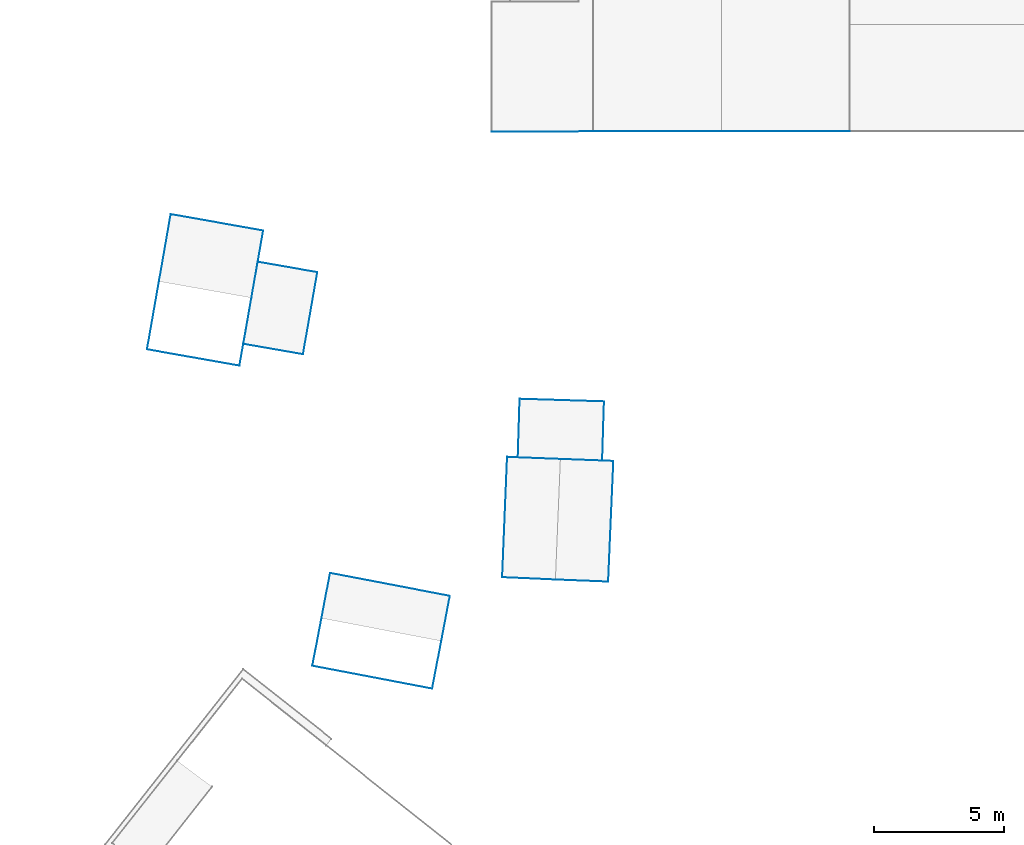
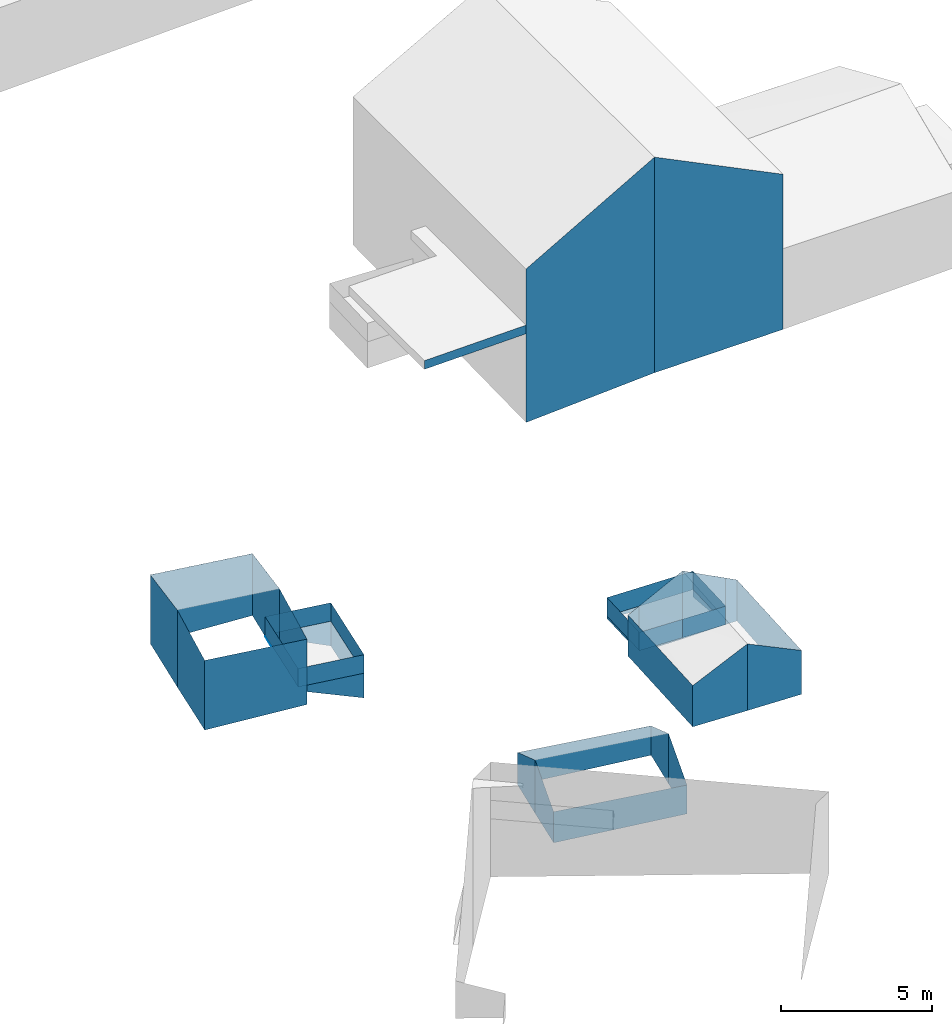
# Not in any storey, part 6 of 59: 49 walls.
"""IFC4 building model written with IfcOpenShell, lengths in metres."""

from ifc_helpers import new_model, entity, si_unit, converted_unit, frame, origin, place, context, subcontext, project, spatial, face_set, surface_model, element, save


model = new_model("IFC4")

# Units and contexts
model_context = context("Model", 3, precision=1e-05, world=origin())
body_context = subcontext(model_context, "Body", "Model", "MODEL_VIEW")
ifc_project = project(units=[converted_unit("PLANEANGLEUNIT", "DEGREE", entity("IfcRatioMeasure", 0.0174532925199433), si_unit("PLANEANGLEUNIT", "RADIAN"), dimensions=[0, 0, 0, 0, 0, 0, 0]), si_unit("AREAUNIT", "SQUARE_METRE"), si_unit("LENGTHUNIT", "METRE")], contexts=[model_context])

# Site, building
site_placement = place(None, origin())
site = spatial("IfcSite", under=ifc_project, at=site_placement, Name="_site")
building_1_placement = place(site_placement, origin())
building_1 = spatial("IfcBuilding", under=site, at=building_1_placement, Name="_building")

# Walls
wall_1_placement = place(building_1_placement, origin())
element("IfcWall", 1, at=wall_1_placement, inside=building_1, Name="Wall", PredefinedType="NOTDEFINED", context=body_context, shape_type="SurfaceModel", body=[
    surface_model("IfcFaceBasedSurfaceModel", [(66.92, 82.64, 213.78), (68.53, 82.58, 212.967), (68.53, 82.58, 211.082), (66.92, 82.64, 211.029)], [face_set([[[0, 1, 2, 3]]])]),
])
wall_2_placement = place(building_1_placement, origin())
element("IfcWall", 2, at=wall_2_placement, inside=building_1, Name="Wall", PredefinedType="NOTDEFINED", context=body_context, shape_type="SurfaceModel", body=[
    surface_model("IfcFaceBasedSurfaceModel", [(65.29, 82.702, 212.885), (66.92, 82.64, 213.78), (66.92, 82.64, 211.029), (65.29, 82.702, 211.0)], [face_set([[[0, 1, 2, 3]]])]),
])
wall_3_placement = place(building_1_placement, origin())
element("IfcWall", 3, at=wall_3_placement, inside=building_1, Name="Wall", PredefinedType="NOTDEFINED", context=body_context, shape_type="SurfaceModel", body=[
    surface_model("IfcFaceBasedSurfaceModel", [(68.76, 77.93, 212.77), (66.73, 78.01, 213.7), (66.73, 78.01, 211.0), (68.76, 77.93, 211.0)], [face_set([[[0, 1, 2, 3]]])]),
])
wall_4_placement = place(building_1_placement, origin())
element("IfcWall", 4, at=wall_4_placement, inside=building_1, Name="Wall", PredefinedType="NOTDEFINED", context=body_context, shape_type="SurfaceModel", body=[
    surface_model("IfcFaceBasedSurfaceModel", [(66.73, 78.01, 213.7), (64.69, 78.1, 212.67), (64.69, 78.1, 211.0), (66.73, 78.01, 211.0)], [face_set([[[0, 1, 2, 3]]])]),
])
wall_5_placement = place(building_1_placement, origin())
element("IfcWall", 5, at=wall_5_placement, inside=building_1, Name="Wall", PredefinedType="NOTDEFINED", context=body_context, shape_type="SurfaceModel", body=[
    surface_model("IfcFaceBasedSurfaceModel", [(68.53, 82.58, 212.967), (68.96, 82.561, 212.75), (68.96, 82.561, 211.09), (68.53, 82.58, 211.082)], [face_set([[[0, 1, 2, 3]]])]),
])
wall_6_placement = place(building_1_placement, origin())
element("IfcWall", 6, at=wall_6_placement, inside=building_1, Name="Wall", PredefinedType="NOTDEFINED", context=body_context, shape_type="SurfaceModel", body=[
    surface_model("IfcFaceBasedSurfaceModel", [(64.88, 82.721, 212.66), (65.29, 82.702, 212.885), (65.29, 82.702, 211.0), (64.88, 82.721, 211.0)], [face_set([[[0, 1, 2, 3]]])]),
])
wall_7_placement = place(building_1_placement, origin())
element("IfcWall", 7, at=wall_7_placement, inside=building_1, Name="Wall", PredefinedType="NOTDEFINED", context=body_context, shape_type="SurfaceModel", body=[
    surface_model("IfcFaceBasedSurfaceModel", [(68.96, 82.561, 212.75), (68.76, 77.93, 212.77), (68.76, 77.93, 211.0), (68.96, 82.561, 211.09)], [face_set([[[0, 1, 2, 3]]])]),
])
wall_8_placement = place(building_1_placement, origin())
element("IfcWall", 8, at=wall_8_placement, inside=building_1, Name="Wall", PredefinedType="NOTDEFINED", context=body_context, shape_type="SurfaceModel", body=[
    surface_model("IfcFaceBasedSurfaceModel", [(64.69, 78.1, 212.67), (64.88, 82.721, 212.66), (64.88, 82.721, 211.0), (64.69, 78.1, 211.0)], [face_set([[[0, 1, 2, 3]]])]),
])
wall_9_placement = place(building_1_placement, origin())
element("IfcWall", 9, at=wall_9_placement, inside=building_1, Name="Wall", PredefinedType="NOTDEFINED", context=body_context, shape_type="SurfaceModel", body=[
    surface_model("IfcFaceBasedSurfaceModel", [(65.36, 84.949, 211.096), (65.29, 82.702, 211.096), (65.29, 82.702, 211.846), (65.36, 84.949, 211.846)], [face_set([[[0, 1, 2, 3]]])]),
])
wall_10_placement = place(building_1_placement, origin())
element("IfcWall", 10, at=wall_10_placement, inside=building_1, Name="Wall", PredefinedType="NOTDEFINED", context=body_context, shape_type="SurfaceModel", body=[
    surface_model("IfcFaceBasedSurfaceModel", [(68.6, 84.85, 211.096), (65.36, 84.949, 211.096), (65.36, 84.949, 211.846), (68.6, 84.85, 211.846)], [face_set([[[0, 1, 2, 3]]])]),
])
wall_11_placement = place(building_1_placement, origin())
element("IfcWall", 11, at=wall_11_placement, inside=building_1, Name="Wall", PredefinedType="NOTDEFINED", context=body_context, shape_type="SurfaceModel", body=[
    surface_model("IfcFaceBasedSurfaceModel", [(68.53, 82.58, 211.096), (68.6, 84.85, 211.096), (68.6, 84.85, 211.846), (68.53, 82.58, 211.846)], [face_set([[[0, 1, 2, 3]]])]),
])
wall_12_placement = place(building_1_placement, origin())
element("IfcWall", 12, at=wall_12_placement, inside=building_1, Name="Wall", PredefinedType="NOTDEFINED", context=body_context, shape_type="SurfaceModel", body=[
    surface_model("IfcFaceBasedSurfaceModel", [(65.36, 84.949, 211.096), (65.29, 82.702, 211.096), (65.29, 82.702, 211.846), (65.36, 84.949, 211.846)], [face_set([[[0, 1, 2, 3]]])]),
])
wall_13_placement = place(building_1_placement, origin())
element("IfcWall", 13, at=wall_13_placement, inside=building_1, Name="Wall", PredefinedType="NOTDEFINED", context=body_context, shape_type="SurfaceModel", body=[
    surface_model("IfcFaceBasedSurfaceModel", [(68.6, 84.85, 211.096), (65.36, 84.949, 211.096), (65.36, 84.949, 211.846), (68.6, 84.85, 211.846)], [face_set([[[0, 1, 2, 3]]])]),
])
wall_14_placement = place(building_1_placement, origin())
element("IfcWall", 14, at=wall_14_placement, inside=building_1, Name="Wall", PredefinedType="NOTDEFINED", context=body_context, shape_type="SurfaceModel", body=[
    surface_model("IfcFaceBasedSurfaceModel", [(68.53, 82.58, 211.096), (68.6, 84.85, 211.096), (68.6, 84.85, 211.846), (68.53, 82.58, 211.846)], [face_set([[[0, 1, 2, 3]]])]),
])
for number, where, name in (
    (15, (0.0, 0.0, 0.0), "Wall"),
    (16, (0.0, 0.0, 0.0), "Wall"),
):
    element("IfcWall", number, at=place(building_1_placement, frame(where)), inside=building_1, Name=name, PredefinedType="NOTDEFINED", context=body_context, shape_type="SurfaceModel", body=[
        surface_model("IfcFaceBasedSurfaceModel", [(66.92, 82.64, 211.075), (68.53, 82.58, 211.075), (68.53, 82.58, 211.825), (66.92, 82.64, 211.825)], [face_set([[[0, 1, 2, 3]]])]),
    ])
for number, where, name in (
    (17, (0.0, 0.0, 0.0), "Wall"),
    (18, (0.0, 0.0, 0.0), "Wall"),
):
    element("IfcWall", number, at=place(building_1_placement, frame(where)), inside=building_1, Name=name, PredefinedType="NOTDEFINED", context=body_context, shape_type="SurfaceModel", body=[
        surface_model("IfcFaceBasedSurfaceModel", [(65.29, 82.702, 211.075), (66.92, 82.64, 211.075), (66.92, 82.64, 211.825), (65.29, 82.702, 211.825)], [face_set([[[0, 1, 2, 3]]])]),
    ])
wall_15_placement = place(building_1_placement, origin())
element("IfcWall", 19, at=wall_15_placement, inside=building_1, Name="Wall", PredefinedType="NOTDEFINED", context=body_context, shape_type="SurfaceModel", body=[
    surface_model("IfcFaceBasedSurfaceModel", [(65.29, 82.702, 211.096), (65.36, 84.949, 211.096), (65.36, 84.949, 211.0), (65.29, 82.702, 211.0)], [face_set([[[0, 1, 2, 3]]])]),
])
wall_16_placement = place(building_1_placement, origin())
element("IfcWall", 20, at=wall_16_placement, inside=building_1, Name="Wall", PredefinedType="NOTDEFINED", context=body_context, shape_type="SurfaceModel", body=[
    surface_model("IfcFaceBasedSurfaceModel", [(68.6, 84.85, 211.096), (68.53, 82.58, 211.096), (68.53, 82.58, 211.082), (68.6, 84.85, 210.795)], [face_set([[[0, 1, 2, 3]]])]),
])
wall_17_placement = place(building_1_placement, origin())
element("IfcWall", 21, at=wall_17_placement, inside=building_1, Name="Wall", PredefinedType="NOTDEFINED", context=body_context, shape_type="SurfaceModel", body=[
    surface_model("IfcFaceBasedSurfaceModel", [(65.36, 84.949, 211.096), (68.6, 84.85, 211.096), (68.6, 84.85, 210.795), (65.36, 84.949, 211.0)], [face_set([[[0, 1, 2, 3]]])]),
])

# Building
building_2_placement = place(site_placement, origin())
building_2 = spatial("IfcBuilding", under=site, at=building_2_placement, Name="_building")

# Walls
for number, where, name in (
    (22, (0.0, 0.0, 0.0), "Wall"),
    (23, (0.0, 0.0, 0.0), "Wall"),
):
    element("IfcWall", number, at=place(building_2_placement, frame(where)), inside=building_2, Name=name, PredefinedType="NOTDEFINED", context=body_context, shape_type="SurfaceModel", body=[
        surface_model("IfcFaceBasedSurfaceModel", [(68.19, 95.221, 215.66), (64.29, 95.211, 215.59), (64.29, 95.211, 215.24), (68.19, 95.221, 215.31)], [face_set([[[0, 1, 2, 3]]])]),
    ])

# Building
building_3_placement = place(site_placement, origin())
building_3 = spatial("IfcBuilding", under=site, at=building_3_placement, Name="_building")

# Walls
wall_18_placement = place(building_3_placement, origin())
element("IfcWall", 24, at=wall_18_placement, inside=building_3, Name="Wall", PredefinedType="NOTDEFINED", context=body_context, shape_type="SurfaceModel", body=[
    surface_model("IfcFaceBasedSurfaceModel", [(55.51, 91.41, 213.16), (55.06, 88.83, 213.45), (55.06, 88.83, 210.564), (55.51, 91.41, 210.653)], [face_set([[[0, 1, 2, 3]]])]),
])
wall_19_placement = place(building_3_placement, origin())
element("IfcWall", 25, at=wall_19_placement, inside=building_3, Name="Wall", PredefinedType="NOTDEFINED", context=body_context, shape_type="SurfaceModel", body=[
    surface_model("IfcFaceBasedSurfaceModel", [(55.06, 88.83, 213.45), (54.6, 86.221, 213.16), (54.6, 86.221, 210.514), (55.06, 88.83, 210.564)], [face_set([[[0, 1, 2, 3]]])]),
])
wall_20_placement = place(building_3_placement, origin())
element("IfcWall", 26, at=wall_20_placement, inside=building_3, Name="Wall", PredefinedType="NOTDEFINED", context=body_context, shape_type="SurfaceModel", body=[
    surface_model("IfcFaceBasedSurfaceModel", [(51.51, 89.461, 213.45), (51.96, 92.039, 213.16), (51.96, 92.039, 210.381), (51.51, 89.461, 210.333)], [face_set([[[0, 1, 2, 3]]])]),
])
wall_21_placement = place(building_3_placement, origin())
element("IfcWall", 27, at=wall_21_placement, inside=building_3, Name="Wall", PredefinedType="NOTDEFINED", context=body_context, shape_type="SurfaceModel", body=[
    surface_model("IfcFaceBasedSurfaceModel", [(51.05, 86.85, 213.16), (51.51, 89.461, 213.45), (51.51, 89.461, 210.333), (51.05, 86.85, 210.338)], [face_set([[[0, 1, 2, 3]]])]),
])
wall_22_placement = place(building_3_placement, origin())
element("IfcWall", 28, at=wall_22_placement, inside=building_3, Name="Wall", PredefinedType="NOTDEFINED", context=body_context, shape_type="SurfaceModel", body=[
    surface_model("IfcFaceBasedSurfaceModel", [(51.96, 92.039, 213.16), (55.51, 91.41, 213.16), (55.51, 91.41, 210.653), (51.96, 92.039, 210.381)], [face_set([[[0, 1, 2, 3]]])]),
])
wall_23_placement = place(building_3_placement, origin())
element("IfcWall", 29, at=wall_23_placement, inside=building_3, Name="Wall", PredefinedType="NOTDEFINED", context=body_context, shape_type="SurfaceModel", body=[
    surface_model("IfcFaceBasedSurfaceModel", [(54.6, 86.221, 213.16), (51.05, 86.85, 213.16), (51.05, 86.85, 210.338), (54.6, 86.221, 210.514)], [face_set([[[0, 1, 2, 3]]])]),
])
wall_24_placement = place(building_3_placement, origin())
element("IfcWall", 30, at=wall_24_placement, inside=building_3, Name="Wall", PredefinedType="NOTDEFINED", context=body_context, shape_type="SurfaceModel", body=[
    surface_model("IfcFaceBasedSurfaceModel", [(57.04, 86.66, 210.66), (54.75, 87.061, 210.66), (54.75, 87.061, 211.41), (57.04, 86.66, 211.41)], [face_set([[[0, 1, 2, 3]]])]),
])
wall_25_placement = place(building_3_placement, origin())
element("IfcWall", 31, at=wall_25_placement, inside=building_3, Name="Wall", PredefinedType="NOTDEFINED", context=body_context, shape_type="SurfaceModel", body=[
    surface_model("IfcFaceBasedSurfaceModel", [(57.59, 89.811, 210.66), (57.04, 86.66, 210.66), (57.04, 86.66, 211.41), (57.59, 89.811, 211.41)], [face_set([[[0, 1, 2, 3]]])]),
])
wall_26_placement = place(building_3_placement, origin())
element("IfcWall", 32, at=wall_26_placement, inside=building_3, Name="Wall", PredefinedType="NOTDEFINED", context=body_context, shape_type="SurfaceModel", body=[
    surface_model("IfcFaceBasedSurfaceModel", [(55.3, 90.211, 210.66), (57.59, 89.811, 210.66), (57.59, 89.811, 211.41), (55.3, 90.211, 211.41)], [face_set([[[0, 1, 2, 3]]])]),
])
wall_27_placement = place(building_3_placement, origin())
element("IfcWall", 33, at=wall_27_placement, inside=building_3, Name="Wall", PredefinedType="NOTDEFINED", context=body_context, shape_type="SurfaceModel", body=[
    surface_model("IfcFaceBasedSurfaceModel", [(54.75, 87.061, 210.66), (55.3, 90.211, 210.66), (55.3, 90.211, 211.41), (54.75, 87.061, 211.41)], [face_set([[[0, 1, 2, 3]]])]),
])
wall_28_placement = place(building_3_placement, origin())
element("IfcWall", 34, at=wall_28_placement, inside=building_3, Name="Wall", PredefinedType="NOTDEFINED", context=body_context, shape_type="SurfaceModel", body=[
    surface_model("IfcFaceBasedSurfaceModel", [(57.04, 86.66, 210.66), (54.75, 87.061, 210.66), (54.75, 87.061, 211.41), (57.04, 86.66, 211.41)], [face_set([[[0, 1, 2, 3]]])]),
])
wall_29_placement = place(building_3_placement, origin())
element("IfcWall", 35, at=wall_29_placement, inside=building_3, Name="Wall", PredefinedType="NOTDEFINED", context=body_context, shape_type="SurfaceModel", body=[
    surface_model("IfcFaceBasedSurfaceModel", [(57.59, 89.811, 210.66), (57.04, 86.66, 210.66), (57.04, 86.66, 211.41), (57.59, 89.811, 211.41)], [face_set([[[0, 1, 2, 3]]])]),
])
wall_30_placement = place(building_3_placement, origin())
element("IfcWall", 36, at=wall_30_placement, inside=building_3, Name="Wall", PredefinedType="NOTDEFINED", context=body_context, shape_type="SurfaceModel", body=[
    surface_model("IfcFaceBasedSurfaceModel", [(55.3, 90.211, 210.66), (57.59, 89.811, 210.66), (57.59, 89.811, 211.41), (55.3, 90.211, 211.41)], [face_set([[[0, 1, 2, 3]]])]),
])
wall_31_placement = place(building_3_placement, origin())
element("IfcWall", 37, at=wall_31_placement, inside=building_3, Name="Wall", PredefinedType="NOTDEFINED", context=body_context, shape_type="SurfaceModel", body=[
    surface_model("IfcFaceBasedSurfaceModel", [(54.75, 87.061, 210.66), (55.3, 90.211, 210.66), (55.3, 90.211, 211.41), (54.75, 87.061, 211.41)], [face_set([[[0, 1, 2, 3]]])]),
])
wall_32_placement = place(building_3_placement, origin())
element("IfcWall", 38, at=wall_32_placement, inside=building_3, Name="Wall", PredefinedType="NOTDEFINED", context=body_context, shape_type="SurfaceModel", body=[
    surface_model("IfcFaceBasedSurfaceModel", [(54.75, 87.061, 210.66), (55.3, 90.211, 210.66), (55.3, 90.211, 210.61), (54.75, 87.061, 210.509)], [face_set([[[0, 1, 2, 3]]])]),
])
wall_33_placement = place(building_3_placement, origin())
element("IfcWall", 39, at=wall_33_placement, inside=building_3, Name="Wall", PredefinedType="NOTDEFINED", context=body_context, shape_type="SurfaceModel", body=[
    surface_model("IfcFaceBasedSurfaceModel", [(57.04, 86.66, 210.66), (54.75, 87.061, 210.66), (54.75, 87.061, 210.509), (57.04, 86.66, 209.66)], [face_set([[[0, 1, 2, 3]]])]),
])
wall_34_placement = place(building_3_placement, origin())
element("IfcWall", 40, at=wall_34_placement, inside=building_3, Name="Wall", PredefinedType="NOTDEFINED", context=body_context, shape_type="SurfaceModel", body=[
    surface_model("IfcFaceBasedSurfaceModel", [(57.59, 89.811, 210.66), (57.04, 86.66, 210.66), (57.04, 86.66, 209.66), (57.59, 89.811, 209.66)], [face_set([[[0, 1, 2, 3]]])]),
])
wall_35_placement = place(building_3_placement, origin())
element("IfcWall", 41, at=wall_35_placement, inside=building_3, Name="Wall", PredefinedType="NOTDEFINED", context=body_context, shape_type="SurfaceModel", body=[
    surface_model("IfcFaceBasedSurfaceModel", [(55.3, 90.211, 210.66), (57.59, 89.811, 210.66), (57.59, 89.811, 209.66), (55.3, 90.211, 210.61)], [face_set([[[0, 1, 2, 3]]])]),
])

# Building
building_4_placement = place(site_placement, origin())
building_4 = spatial("IfcBuilding", under=site, at=building_4_placement, Name="_building")

# Walls
wall_36_placement = place(building_4_placement, origin())
element("IfcWall", 42, at=wall_36_placement, inside=building_4, Name="Wall", PredefinedType="NOTDEFINED", context=body_context, shape_type="SurfaceModel", body=[
    surface_model("IfcFaceBasedSurfaceModel", [(78.04, 95.221, 218.32), (73.11, 95.221, 220.74), (73.11, 95.221, 212.009), (78.04, 95.221, 212.04)], [face_set([[[0, 1, 2, 3]]])]),
])
wall_37_placement = place(building_4_placement, origin())
element("IfcWall", 43, at=wall_37_placement, inside=building_4, Name="Wall", PredefinedType="NOTDEFINED", context=body_context, shape_type="SurfaceModel", body=[
    surface_model("IfcFaceBasedSurfaceModel", [(73.11, 95.221, 220.74), (68.19, 95.221, 217.93), (68.19, 95.221, 211.717), (73.11, 95.221, 212.009)], [face_set([[[0, 1, 2, 3]]])]),
])

# Building
building_5_placement = place(site_placement, origin())
building_5 = spatial("IfcBuilding", under=site, at=building_5_placement, Name="_building")

# Walls
wall_38_placement = place(building_5_placement, origin())
element("IfcWall", 44, at=wall_38_placement, inside=building_5, Name="Wall", PredefinedType="NOTDEFINED", context=body_context, shape_type="SurfaceModel", body=[
    surface_model("IfcFaceBasedSurfaceModel", [(62.35, 75.65, 213.03), (62.0, 73.82, 212.18), (62.0, 73.82, 211.016), (62.35, 75.65, 211.0)], [face_set([[[0, 1, 2, 3]]])]),
])
wall_39_placement = place(building_5_placement, origin())
element("IfcWall", 45, at=wall_39_placement, inside=building_5, Name="Wall", PredefinedType="NOTDEFINED", context=body_context, shape_type="SurfaceModel", body=[
    surface_model("IfcFaceBasedSurfaceModel", [(62.68, 77.381, 212.18), (62.35, 75.65, 213.03), (62.35, 75.65, 211.0), (62.68, 77.381, 210.993)], [face_set([[[0, 1, 2, 3]]])]),
])
wall_40_placement = place(building_5_placement, origin())
element("IfcWall", 46, at=wall_40_placement, inside=building_5, Name="Wall", PredefinedType="NOTDEFINED", context=body_context, shape_type="SurfaceModel", body=[
    surface_model("IfcFaceBasedSurfaceModel", [(57.4, 74.699, 212.18), (57.75, 76.529, 213.03), (57.75, 76.529, 210.87), (57.4, 74.699, 210.918)], [face_set([[[0, 1, 2, 3]]])]),
])
wall_41_placement = place(building_5_placement, origin())
element("IfcWall", 47, at=wall_41_placement, inside=building_5, Name="Wall", PredefinedType="NOTDEFINED", context=body_context, shape_type="SurfaceModel", body=[
    surface_model("IfcFaceBasedSurfaceModel", [(57.75, 76.529, 213.03), (58.08, 78.26, 212.18), (58.08, 78.26, 210.863), (57.75, 76.529, 210.87)], [face_set([[[0, 1, 2, 3]]])]),
])
wall_42_placement = place(building_5_placement, origin())
element("IfcWall", 48, at=wall_42_placement, inside=building_5, Name="Wall", PredefinedType="NOTDEFINED", context=body_context, shape_type="SurfaceModel", body=[
    surface_model("IfcFaceBasedSurfaceModel", [(62.0, 73.82, 212.18), (57.4, 74.699, 212.18), (57.4, 74.699, 210.918), (62.0, 73.82, 211.016)], [face_set([[[0, 1, 2, 3]]])]),
])
wall_43_placement = place(building_5_placement, origin())
element("IfcWall", 49, at=wall_43_placement, inside=building_5, Name="Wall", PredefinedType="NOTDEFINED", context=body_context, shape_type="SurfaceModel", body=[
    surface_model("IfcFaceBasedSurfaceModel", [(58.08, 78.26, 212.18), (62.68, 77.381, 212.18), (62.68, 77.381, 210.993), (58.08, 78.26, 210.863)], [face_set([[[0, 1, 2, 3]]])]),
])

save(model, "model.ifc")
